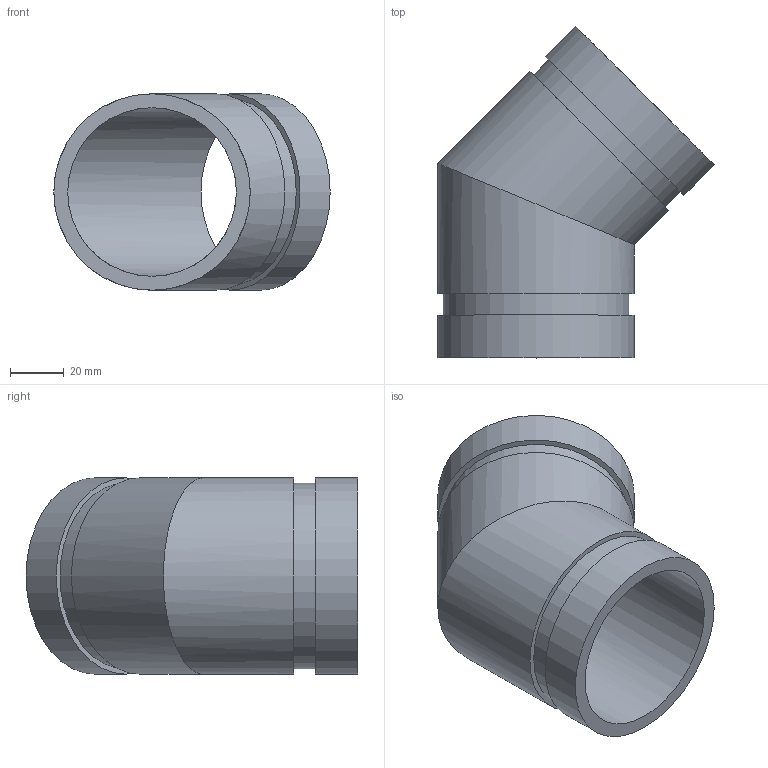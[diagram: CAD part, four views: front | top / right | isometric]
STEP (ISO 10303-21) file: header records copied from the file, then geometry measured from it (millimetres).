
FILE_DESCRIPTION(/* description */ ('VIC 45 DEG FABRICATED ELBOW No 11 SWS (OGS)','CAx-IF Rec.Pracs.---Representation and Presentation of Product Manufacturing Information (PMI)---4.0---2014-10-13'),/* implementation_level */ '2;1');
FILE_NAME(/* name */ 'C:\Users\kkamble\AppData\Roaming\Autodesk\ApplicationPlugins\Back Up\Victaulic_IPS_Elbow 45 Deg_No 11 SWS (OGS)\Victaulic_IPS_Elbow 45 Deg_No 11 SWS (OGS)_2.5 (65).stp',/* time_stamp */ '2020-09-16T22:14:25+06:00',/* author */ ('cgray'),/* organization */ ('Victaulic'),/* preprocessor_version */ 'ST-DEVELOPER v17.2',/* originating_system */ 'Autodesk Inventor 2019',/* authorisation */ '');
FILE_SCHEMA (('AP242_MANAGED_MODEL_BASED_3D_ENGINEERING_MIM_LF { 1 0 10303 442 1 1 4 }'));
Length unit declared in the file: inch
Products named in the file (1): 11 SWS-02.5
Bounding box: 102.74 x 123.38 x 73.03 mm (x, y, z)
Volume: 118672.6 mm3; surface area: 52501 mm2
Topology: 1 solids, 1 shells, 14 faces, 30 edges, 22 vertices
Faces by surface type: cylinder 8, plane 6
Full cylindrical faces by diameter (mm): 62.713 x2, 69.088 x2, 73.025 x4
Entity records: 554 total; most frequent: DIRECTION 108, CARTESIAN_POINT 84, ORIENTED_EDGE 60, AXIS2_PLACEMENT_3D 50, EDGE_CURVE 30, VERTEX_POINT 22, EDGE_LOOP 20, CIRCLE 16
